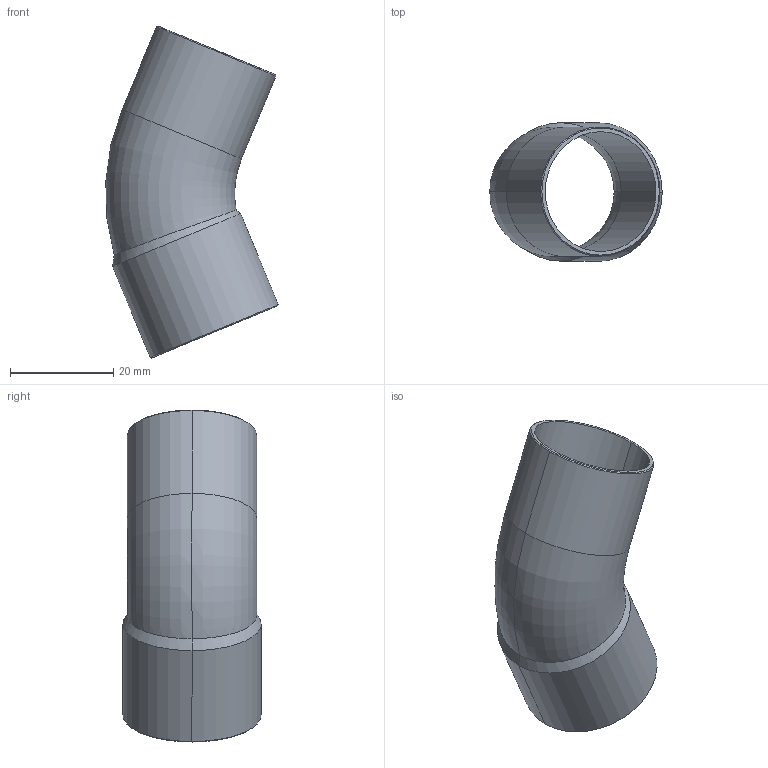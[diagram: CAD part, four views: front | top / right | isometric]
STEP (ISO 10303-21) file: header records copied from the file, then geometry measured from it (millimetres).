
FILE_DESCRIPTION((''),'2;1');
FILE_NAME('P:\Bouwmaten\z-maattekeningen 3D\5000\5040\1504025.stp','2005-10-05T11:15:41',('Kris'),(''),'Autodesk Inventor 8','Autodesk Inventor 8','');
FILE_SCHEMA(('AUTOMOTIVE_DESIGN { 1 0 10303 214 1 1 1 1 }'));
Length unit declared in the file: millimetre
Products named in the file (1): 1504025
Bounding box: 33.37 x 26.8 x 64.27 mm (x, y, z)
Volume: 4044.6 mm3; surface area: 9111.8 mm2
Topology: 1 solids, 1 shells, 24 faces, 50 edges, 28 vertices
Faces by surface type: cone 10, cylinder 8, torus 4, plane 2
Entity records: 729 total; most frequent: CARTESIAN_POINT 179, DIRECTION 124, ORIENTED_EDGE 100, AXIS2_PLACEMENT_3D 53, EDGE_CURVE 50, VERTEX_POINT 28, CIRCLE 28, EDGE_LOOP 26
